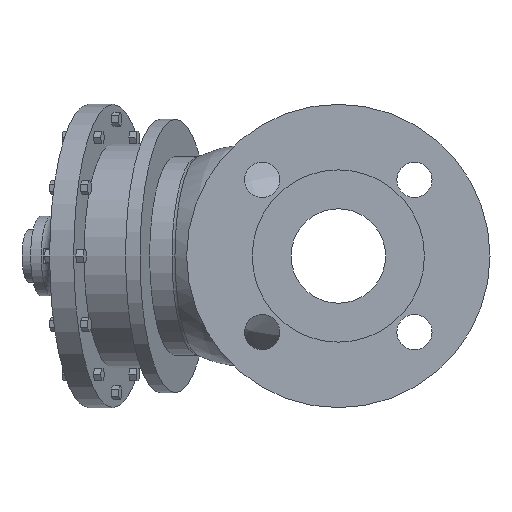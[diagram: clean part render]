
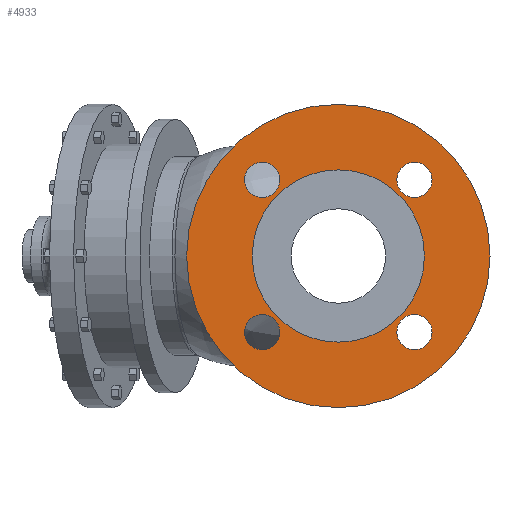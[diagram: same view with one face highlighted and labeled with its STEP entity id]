
A CAD part, left-side view. The second image highlights one B-rep face of the part: STEP entity #4933.
In plain terms, the highlighted planar face has unit normal (-1, 0, 0).
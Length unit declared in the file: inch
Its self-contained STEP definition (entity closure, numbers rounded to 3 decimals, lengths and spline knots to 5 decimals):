
#250=PLANE('',#5278);
#297=FACE_BOUND('',#912,.T.);
#298=FACE_BOUND('',#913,.T.);
#299=FACE_BOUND('',#914,.T.);
#300=FACE_BOUND('',#915,.T.);
#301=FACE_BOUND('',#916,.T.);
#618=FACE_OUTER_BOUND('',#911,.T.);
#911=EDGE_LOOP('',(#4353,#4354));
#912=EDGE_LOOP('',(#4355));
#913=EDGE_LOOP('',(#4356));
#914=EDGE_LOOP('',(#4357));
#915=EDGE_LOOP('',(#4358));
#916=EDGE_LOOP('',(#4359,#4360));
#1944=CIRCLE('',#4962,0.35433);
#1946=CIRCLE('',#4965,0.35433);
#1948=CIRCLE('',#4968,0.35433);
#1950=CIRCLE('',#4971,0.35433);
#2025=CIRCLE('',#5276,1.73229);
#2026=CIRCLE('',#5277,1.73229);
#2027=CIRCLE('',#5279,3.05);
#2028=CIRCLE('',#5280,3.05);
#2039=VERTEX_POINT('',#6517);
#2041=VERTEX_POINT('',#6523);
#2043=VERTEX_POINT('',#6529);
#2045=VERTEX_POINT('',#6535);
#2464=VERTEX_POINT('',#8992);
#2465=VERTEX_POINT('',#8993);
#2466=VERTEX_POINT('',#8998);
#2467=VERTEX_POINT('',#8999);
#2478=EDGE_CURVE('',#2039,#2039,#1944,.T.);
#2481=EDGE_CURVE('',#2041,#2041,#1946,.T.);
#2484=EDGE_CURVE('',#2043,#2043,#1948,.T.);
#2487=EDGE_CURVE('',#2045,#2045,#1950,.T.);
#3103=EDGE_CURVE('',#2464,#2465,#2025,.T.);
#3104=EDGE_CURVE('',#2465,#2464,#2026,.T.);
#3106=EDGE_CURVE('',#2466,#2467,#2027,.T.);
#3107=EDGE_CURVE('',#2467,#2466,#2028,.T.);
#4353=ORIENTED_EDGE('',*,*,#3106,.F.);
#4354=ORIENTED_EDGE('',*,*,#3107,.F.);
#4355=ORIENTED_EDGE('',*,*,#2478,.T.);
#4356=ORIENTED_EDGE('',*,*,#2481,.T.);
#4357=ORIENTED_EDGE('',*,*,#2484,.T.);
#4358=ORIENTED_EDGE('',*,*,#2487,.T.);
#4359=ORIENTED_EDGE('',*,*,#3103,.T.);
#4360=ORIENTED_EDGE('',*,*,#3104,.T.);
#4933=ADVANCED_FACE('',(#618,#297,#298,#299,#300,#301),#250,.T.);
#4962=AXIS2_PLACEMENT_3D('',#6518,#5315,#5316);
#4965=AXIS2_PLACEMENT_3D('',#6524,#5322,#5323);
#4968=AXIS2_PLACEMENT_3D('',#6530,#5329,#5330);
#4971=AXIS2_PLACEMENT_3D('',#6536,#5336,#5337);
#5276=AXIS2_PLACEMENT_3D('',#8994,#6441,#6442);
#5277=AXIS2_PLACEMENT_3D('',#8995,#6443,#6444);
#5278=AXIS2_PLACEMENT_3D('',#8997,#6446,#6447);
#5279=AXIS2_PLACEMENT_3D('',#9000,#6448,#6449);
#5280=AXIS2_PLACEMENT_3D('',#9001,#6450,#6451);
#5315=DIRECTION('center_axis',(1.,0.,0.));
#5316=DIRECTION('ref_axis',(0.,1.,0.));
#5322=DIRECTION('center_axis',(1.,0.,0.));
#5323=DIRECTION('ref_axis',(0.,0.,-1.));
#5329=DIRECTION('center_axis',(1.,0.,0.));
#5330=DIRECTION('ref_axis',(0.,-1.,0.));
#5336=DIRECTION('center_axis',(1.,0.,0.));
#5337=DIRECTION('ref_axis',(0.,0.,1.));
#6441=DIRECTION('center_axis',(1.,0.,0.));
#6442=DIRECTION('ref_axis',(0.,0.,-1.));
#6443=DIRECTION('center_axis',(1.,0.,0.));
#6444=DIRECTION('ref_axis',(0.,0.,-1.));
#6446=DIRECTION('center_axis',(-1.,0.,0.));
#6447=DIRECTION('ref_axis',(0.,0.,1.));
#6448=DIRECTION('center_axis',(1.,0.,0.));
#6449=DIRECTION('ref_axis',(0.,0.,-1.));
#6450=DIRECTION('center_axis',(1.,0.,0.));
#6451=DIRECTION('ref_axis',(0.,0.,-1.));
#6517=CARTESIAN_POINT('',(-3.91689,-1.88547,-1.53114));
#6518=CARTESIAN_POINT('Origin',(-3.91689,-1.53114,-1.53114));
#6523=CARTESIAN_POINT('',(-3.91689,-1.53114,1.88547));
#6524=CARTESIAN_POINT('Origin',(-3.91689,-1.53114,1.53114));
#6529=CARTESIAN_POINT('',(-3.91689,1.88547,1.53114));
#6530=CARTESIAN_POINT('Origin',(-3.91689,1.53114,1.53114));
#6535=CARTESIAN_POINT('',(-3.91689,1.53114,-1.88547));
#6536=CARTESIAN_POINT('Origin',(-3.91689,1.53114,-1.53114));
#8992=CARTESIAN_POINT('',(-3.91689,1.73229,0.));
#8993=CARTESIAN_POINT('',(-3.91689,-1.73229,0.));
#8994=CARTESIAN_POINT('Origin',(-3.91689,0.,0.));
#8995=CARTESIAN_POINT('Origin',(-3.91689,0.,0.));
#8997=CARTESIAN_POINT('Origin',(-3.91689,3.05,0.));
#8998=CARTESIAN_POINT('',(-3.91689,3.05,0.));
#8999=CARTESIAN_POINT('',(-3.91689,-3.05,0.));
#9000=CARTESIAN_POINT('Origin',(-3.91689,0.,0.));
#9001=CARTESIAN_POINT('Origin',(-3.91689,0.,0.));
